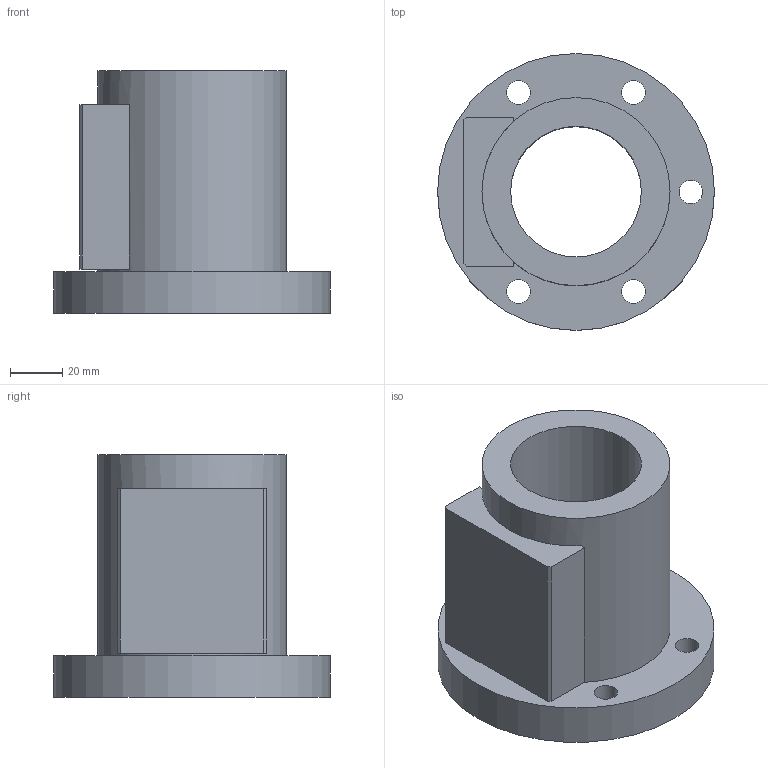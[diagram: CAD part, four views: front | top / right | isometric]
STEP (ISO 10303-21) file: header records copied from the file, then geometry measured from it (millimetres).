
FILE_DESCRIPTION(/* description */ (''),/* implementation_level */ '2;1');
FILE_NAME(/* name */ '50-6B3',/* time_stamp */ '2006-07-31T11:49:20+08:00',/* author */ (''),/* organization */ (''),/* preprocessor_version */ 'ST-DEVELOPER v9',/* originating_system */ 'UGS - NX 4.0',/* authorisation */ '');
FILE_SCHEMA (('CONFIG_CONTROL_DESIGN'));
Length unit declared in the file: millimetre
Products named in the file (1): 50-6B3
Bounding box: 106 x 106 x 93 mm (x, y, z)
Volume: 303234.1 mm3; surface area: 56947.5 mm2
Topology: 1 solids, 1 shells, 30 faces, 67 edges, 46 vertices
Faces by surface type: plane 17, cylinder 13
Full cylindrical faces by diameter (mm): 9 x5, 14 x5, 50 x1, 72 x1, 106 x1
Entity records: 860 total; most frequent: DIRECTION 140, CARTESIAN_POINT 123, ORIENTED_EDGE 100, EDGE_LOOP 62, AXIS2_PLACEMENT_3D 59, EDGE_CURVE 50, FACE_BOUND 45, VERTEX_POINT 42
